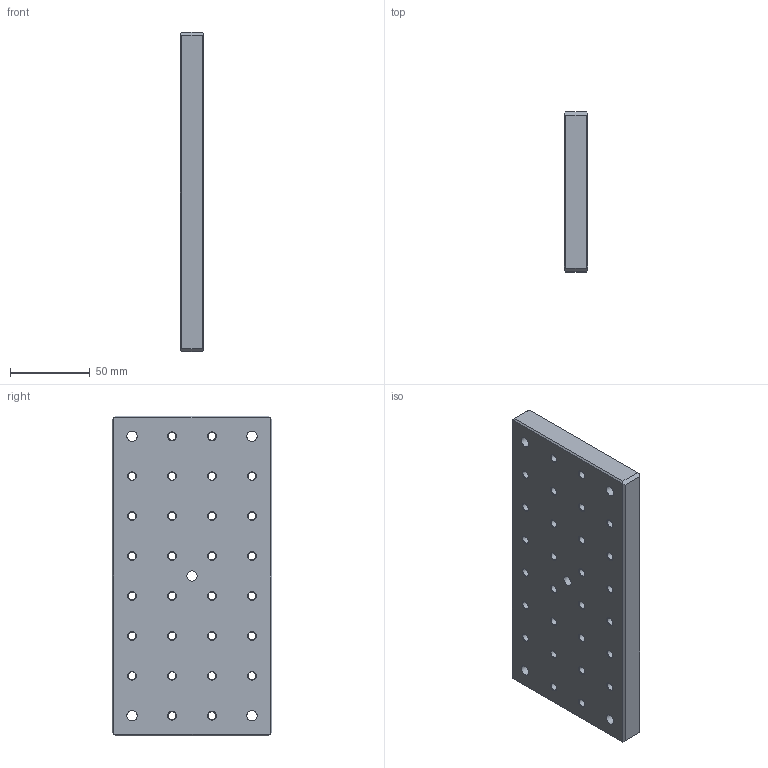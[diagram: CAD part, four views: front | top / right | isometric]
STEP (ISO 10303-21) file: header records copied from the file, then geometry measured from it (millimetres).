
FILE_DESCRIPTION(/* description */ (''),/* implementation_level */ '2;1');
FILE_NAME(/* name */ 'U:\KONSTRUKTORIAI\DOKUMENTACIJA\1\1B-A\Inventor\1B-A-10-20-015\step\1B-A-10-20-015.stp',/* time_stamp */ '2016-10-07T14:44:42+03:00',/* author */ ('dsgn31'),/* organization */ (''),/* preprocessor_version */ 'ST-DEVELOPER v15.2',/* originating_system */ 'Autodesk Inventor 2014',/* authorisation */ '');
FILE_SCHEMA (('AUTOMOTIVE_DESIGN { 1 0 10303 214 3 1 1 }'));
Length unit declared in the file: millimetre
Products named in the file (1): 1B-A-10-20-015.01
Bounding box: 15 x 100 x 200 mm (x, y, z)
Volume: 286314.9 mm3; surface area: 55265.7 mm2
Topology: 1 solids, 1 shells, 117 faces, 294 edges, 184 vertices
Faces by surface type: cone 56, cylinder 38, plane 23
Full cylindrical faces by diameter (mm): 4.917 x28, 6.5 x5, 11 x5
Entity records: 2943 total; most frequent: DIRECTION 540, CARTESIAN_POINT 446, ORIENTED_EDGE 344, EDGE_LOOP 282, AXIS2_PLACEMENT_3D 250, EDGE_CURVE 172, FACE_BOUND 167, VERTEX_POINT 156
